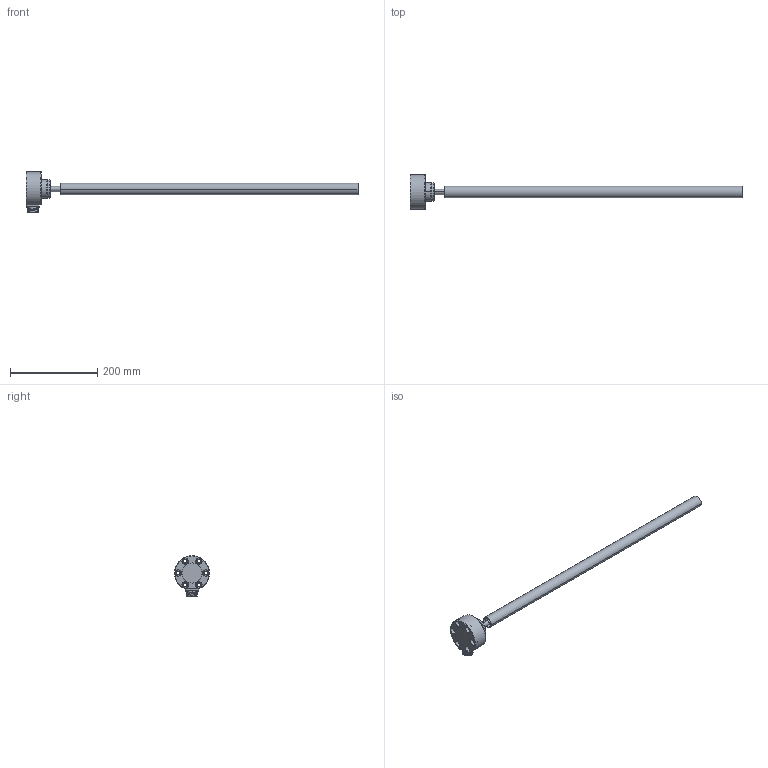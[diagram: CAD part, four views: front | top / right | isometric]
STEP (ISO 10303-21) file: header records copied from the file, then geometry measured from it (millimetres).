
FILE_DESCRIPTION((''),'2;1');
FILE_NAME('EDS-630-F_MIT_ROHR_ASM','2007-12-17T',('11000065'),(''),'PRO/ENGINEER BY PARAMETRIC TECHNOLOGY CORPORATION, 2007160','PRO/ENGINEER BY PARAMETRIC TECHNOLOGY CORPORATION, 2007160','');
FILE_SCHEMA(('AUTOMOTIVE_DESIGN { 1 2 10303 214 0 1 1 1 }'));
Length unit declared in the file: millimetre
Products named in the file (4): EDS-630-F; MESSROHR; O-RING-38X2; EDS-630-F_MIT_ROHR_ASM
Assembly tree (3 placements, depth 2):
  EDS-630-F_MIT_ROHR_ASM
    EDS-630-F
    MESSROHR
    O-RING-38X2
Bounding box: 760 x 79.87 x 93.7 mm (x, y, z)
Volume: 342255.7 mm3; surface area: 162041.6 mm2
Topology: 3 solids, 7 shells, 270 faces, 638 edges, 418 vertices
Faces by surface type: cylinder 113, plane 88, cone 39, bspline 16, torus 12, sphere 2
Entity records: 9061 total; most frequent: CARTESIAN_POINT 2518, DIRECTION 1316, ORIENTED_EDGE 1272, EDGE_CURVE 636, AXIS2_PLACEMENT_3D 554, VERTEX_POINT 418, EDGE_LOOP 324, CIRCLE 293
